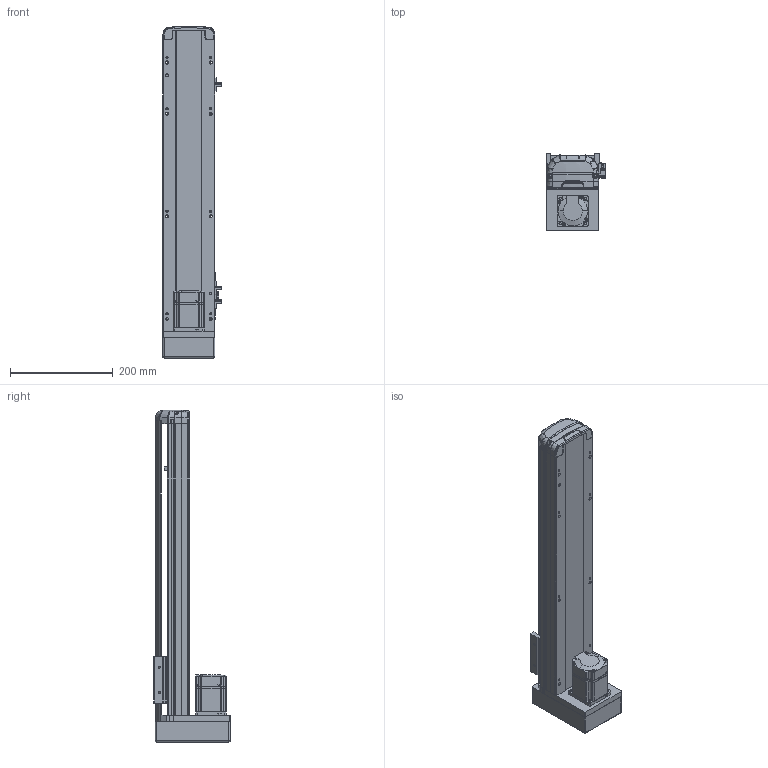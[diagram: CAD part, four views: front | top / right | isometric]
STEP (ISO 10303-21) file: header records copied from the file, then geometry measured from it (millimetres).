
FILE_DESCRIPTION (( 'STEP AP214' ), '1' );
FILE_NAME ('RTH10-XX-400-M-M20-C4.STEP', '2025-10-25T04:05:29', ( 'Microsoft' ), ( 'Microsoft' ), 'SwSTEP 2.0', 'SolidWorks 2018', '' );
FILE_SCHEMA (( 'AUTOMOTIVE_DESIGN' ));
Length unit declared in the file: millimetre
Products named in the file (10): RTH10-XX-400-M-M20-C4; N_200W-1^RTH10-XX-XX-M-M20-C4; N_OMRON EE-SX672 传感器^RTH10-XX-XX-M-M20-C4; N_RTH12-M-011P-臏倰第菁釱^RTH10-XX-XX-M-M20-C4; N_RTH13-L-012覜茼え俋离^RTH10-XX-XX-M-M20-C4; N_RTH12-GY-001P^RTH10-XX-XX-M-M20-C4; N_RTH12-GY-004-賑釱^RTH10-XX-XX-M-M20-C4; N_RTH12-M-008-萇儂啣^RTH10-XX-XX-M-M20-C4; N_RTH12-M-007P-奻裔^RTH10-XX-XX-M-M20-C4; N_RTH12-M-018-裔赽^RTH10-XX-XX-M-M20-C4
Assembly tree (11 placements, depth 2):
  RTH10-XX-400-M-M20-C4
    N_RTH12-M-011P-臏倰第菁釱^RTH10-XX-XX-M-M20-C4
    N_RTH13-L-012覜茼え俋离^RTH10-XX-XX-M-M20-C4
    N_OMRON EE-SX672 传感器^RTH10-XX-XX-M-M20-C4  x3
    N_200W-1^RTH10-XX-XX-M-M20-C4
    N_RTH12-M-007P-奻裔^RTH10-XX-XX-M-M20-C4
    N_RTH12-M-008-萇儂啣^RTH10-XX-XX-M-M20-C4
    N_RTH12-M-018-裔赽^RTH10-XX-XX-M-M20-C4
    N_RTH12-GY-004-賑釱^RTH10-XX-XX-M-M20-C4
    N_RTH12-GY-001P^RTH10-XX-XX-M-M20-C4
Bounding box: 116.5 x 149 x 647.14 mm (x, y, z)
Volume: 3341948.7 mm3; surface area: 501274.8 mm2
Topology: 10 solids, 12 shells, 1969 faces, 5482 edges, 3599 vertices
Faces by surface type: plane 987, cylinder 475, bspline 472, cone 29, sphere 4, torus 2
Entity records: 59120 total; most frequent: CARTESIAN_POINT 23227, ORIENTED_EDGE 8036, DIRECTION 6212, EDGE_CURVE 4024, VERTEX_POINT 2643, LINE 2172, VECTOR 2172, AXIS2_PLACEMENT_3D 2020
